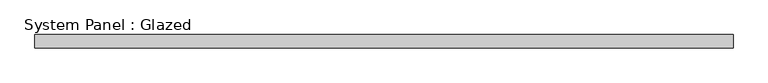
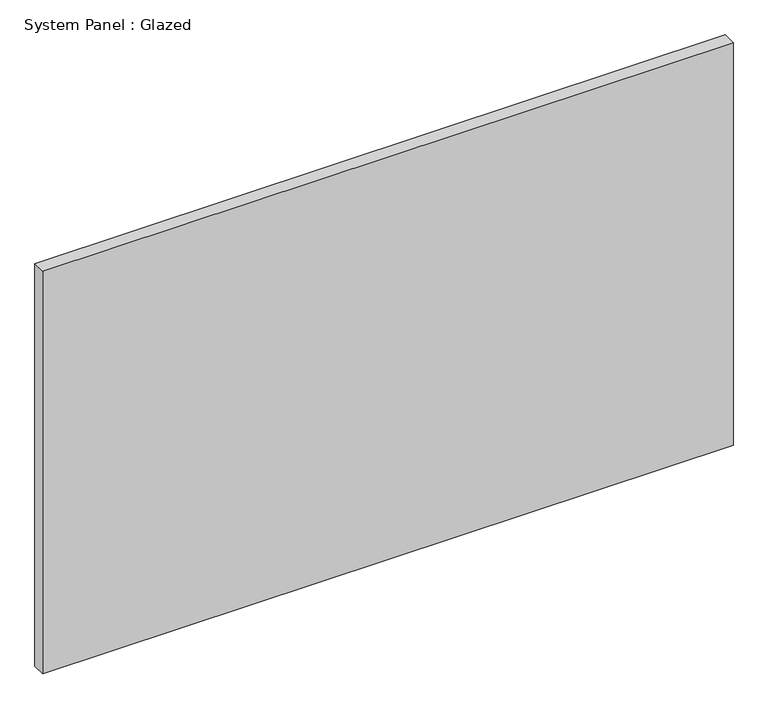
"""IFC4 building model written with IfcOpenShell, lengths in millimetres: plate geometry, System Panel : Glazed."""

from ifc_helpers import new_model, si_unit, origin, origin_with_axes, place, context, project, spatial, polyline, outline, extrude, source, transform, mapped, element, save


def system_panel_glazed_cbf84620(model_context):
    return source(origin(), model_context, "Body", "SweptSolid", [
        extrude(outline(polyline([(661.0330663, 19.05), (-661.0330663, 19.05), (-661.0330663, 44.45), (661.0330663, 44.45), (661.0330663, 19.05)])), origin_with_axes(), (0.0, 0.0, 1.0), 814.714222),
    ])


if __name__ == "__main__":
    model = new_model("IFC4")
    model_context = context("Model", 3, world=origin())
    ifc_project = project(units=[si_unit("LENGTHUNIT", "METRE", prefix="MILLI")], contexts=[model_context])
    site = spatial("IfcSite", under=ifc_project)
    building = spatial("IfcBuilding", under=site)
    placement = place(None, origin())
    system_panel_glazed_shape = system_panel_glazed_cbf84620(model_context)
    element("IfcPlate", 1, ObjectType="System Panel : Glazed", at=placement, inside=building, context=model_context, shape_type="MappedRepresentation", body=[
        mapped(system_panel_glazed_shape, transform((0.0, 0.0, 0.0), x_axis=(1.0, 0.0, 0.0), y_axis=(0.0, 1.0, 0.0), z_axis=(0.0, 0.0, 1.0))),
    ])
    save(model, "model.ifc")
